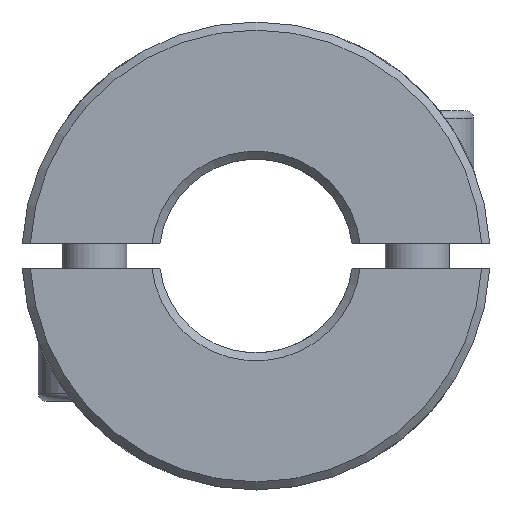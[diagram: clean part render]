
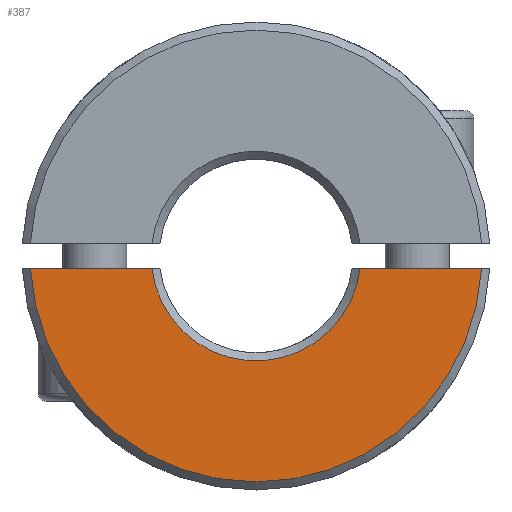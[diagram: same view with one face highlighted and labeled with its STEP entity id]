
A CAD part, front view. The second image highlights one B-rep face of the part: STEP entity #387.
In plain terms, the highlighted planar face has unit normal (0, -1, 0).
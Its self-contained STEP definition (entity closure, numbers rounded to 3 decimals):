
#387 = ADVANCED_FACE( '', ( #759 ), #760, .F. );
#759 = FACE_OUTER_BOUND( '', #1095, .T. );
#760 = PLANE( '', #1096 );
#1095 = EDGE_LOOP( '', ( #1739, #1740, #1741, #1742 ) );
#1096 = AXIS2_PLACEMENT_3D( '', #1743, #1744, #1745 );
#1739 = ORIENTED_EDGE( '', *, *, #1969, .F. );
#1740 = ORIENTED_EDGE( '', *, *, #2031, .T. );
#1741 = ORIENTED_EDGE( '', *, *, #1813, .F. );
#1742 = ORIENTED_EDGE( '', *, *, #2009, .T. );
#1743 = CARTESIAN_POINT( '', ( 0., -45., 0. ) );
#1744 = DIRECTION( '', ( 0., 1., 0. ) );
#1745 = DIRECTION( '', ( 0., 0., 1. ) );
#1813 = EDGE_CURVE( '', #2078, #2079, #2080, .T. );
#1969 = EDGE_CURVE( '', #2323, #2325, #2326, .T. );
#2009 = EDGE_CURVE( '', #2078, #2325, #2374, .T. );
#2031 = EDGE_CURVE( '', #2323, #2079, #2398, .F. );
#2078 = VERTEX_POINT( '', #2453 );
#2079 = VERTEX_POINT( '', #2454 );
#2080 = LINE( '', #2455, #2456 );
#2323 = VERTEX_POINT( '', #3623 );
#2325 = VERTEX_POINT( '', #3628 );
#2326 = LINE( '', #3629, #3630 );
#2374 = CIRCLE( '', #3801, 6.5 );
#2398 = CIRCLE( '', #3831, 14. );
#2453 = CARTESIAN_POINT( '', ( 6.457, -45., -0.75 ) );
#2454 = CARTESIAN_POINT( '', ( 13.98, -45., -0.75 ) );
#2455 = CARTESIAN_POINT( '', ( 0., -45., -0.75 ) );
#2456 = VECTOR( '', #3880, 1000. );
#3623 = CARTESIAN_POINT( '', ( -13.98, -45., -0.75 ) );
#3628 = CARTESIAN_POINT( '', ( -6.457, -45., -0.75 ) );
#3629 = CARTESIAN_POINT( '', ( 0., -45., -0.75 ) );
#3630 = VECTOR( '', #4060, 1000. );
#3801 = AXIS2_PLACEMENT_3D( '', #4095, #4096, #4097 );
#3831 = AXIS2_PLACEMENT_3D( '', #4107, #4108, #4109 );
#3880 = DIRECTION( '', ( 1., 0., 0. ) );
#4060 = DIRECTION( '', ( 1., 0., 0. ) );
#4095 = CARTESIAN_POINT( '', ( 0., -45., 0. ) );
#4096 = DIRECTION( '', ( 0., 1., 0. ) );
#4097 = DIRECTION( '', ( 0., 0., 1. ) );
#4107 = CARTESIAN_POINT( '', ( 0., -45., 0. ) );
#4108 = DIRECTION( '', ( 0., 1., 0. ) );
#4109 = DIRECTION( '', ( 0., 0., 1. ) );
